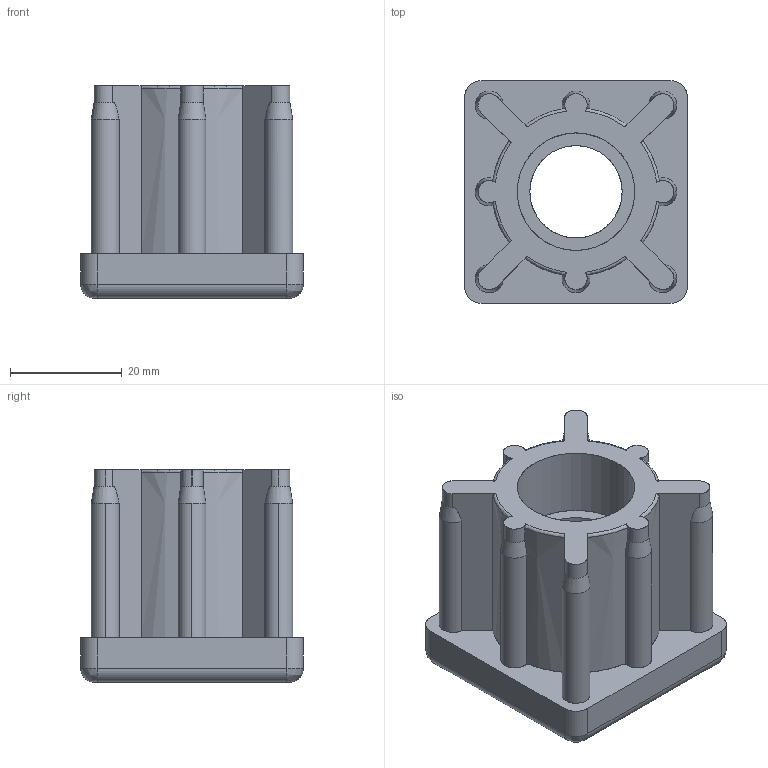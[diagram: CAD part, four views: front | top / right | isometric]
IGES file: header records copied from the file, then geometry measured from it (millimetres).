
Start section: SolidWorks IGES file using analytic representation for surfaces
Global section: file name: Y:\Tecnodin, S.L\Planos Clientes - Documentos\General\PLANOS CLIENTES\3D\-REVISAR-\CONTERAS TECOM\42006840320.IGS; native system: SolidWorks 2018; preprocessor: SolidWorks 2018; author: GerPro; date: 200226.113503; units: millimetre
Bounding box: 39.8 x 39.8 x 38 mm (x, y, z)
Surface area: 14870 mm2 (no closed solid volume)
Topology: 0 solids, 0 shells, 114 faces, 1376 edges, 1376 vertices
Faces by surface type: revolution 75, bspline 39
